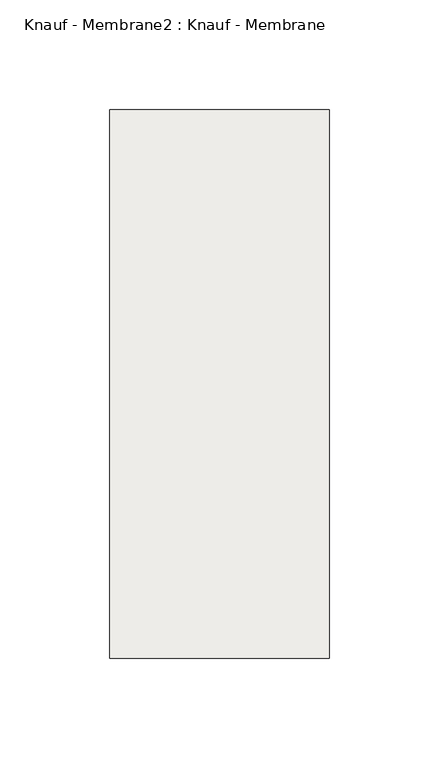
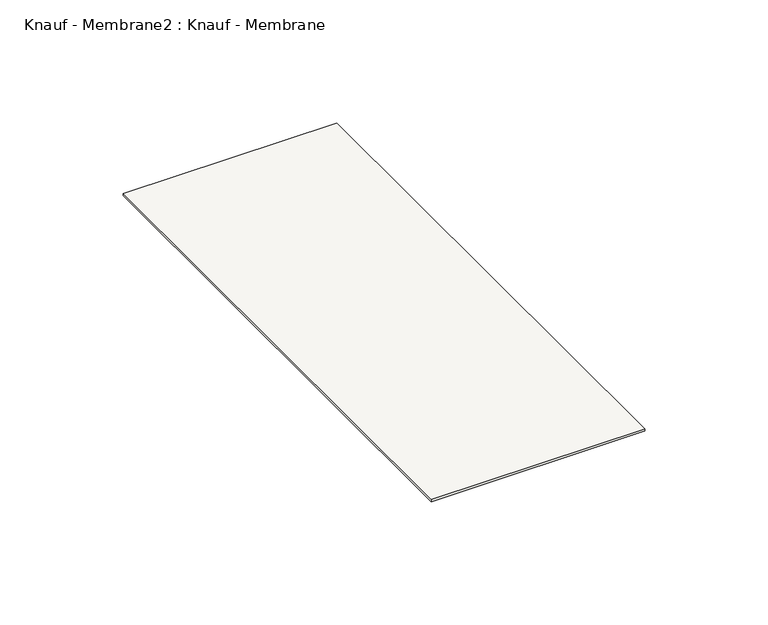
"""IFC4 building model written with IfcOpenShell, lengths in millimetres: slab geometry, Knauf - Membrane2 : Knauf - Membrane."""

import ifcopenshell
import ifcopenshell.guid

model = None  # the IFC model being written
_history = None  # IfcOwnerHistory: only IFC2X3 demands one
_inside = {}  # id of a spatial element -> (the spatial element, [elements in it])
_under = {}  # id of a project, library or spatial element -> (it, [spatial elements below it])
_declared = {}  # id of a project -> (the project, [libraries it declares])
_typed = {}  # id of a type object -> (the type object, [elements of that type])
_made_of = {}  # id of a material, layer set ... -> (it, [elements and type objects made of it])


def new_model(schema):
    """Start an empty IFC model of exactly this schema.

    Asked for "IFC4X3", IfcOpenShell would pick the latest addendum, in which some entities
    have other attributes; the version numbers below select the first issue.
    IFC2X3 requires an IfcOwnerHistory on every rooted entity: one is made here for all.
    """
    global model, _history
    if schema == "IFC4X3":
        model = ifcopenshell.file(schema_version=(4, 3, 0, 0))
    else:
        model = ifcopenshell.file(schema=schema)
    _inside.clear()
    _under.clear()
    _declared.clear()
    _typed.clear()
    _made_of.clear()
    _history = None
    if model.schema == "IFC2X3":
        org = make("IfcOrganization", Name="unknown")
        user = make(
            "IfcPersonAndOrganization",
            ThePerson=make("IfcPerson", FamilyName="unknown"),
            TheOrganization=org,
        )
        app = make(
            "IfcApplication",
            ApplicationDeveloper=org,
            Version="unknown",
            ApplicationFullName="unknown",
            ApplicationIdentifier="unknown",
        )
        _history = make(
            "IfcOwnerHistory",
            OwningUser=user,
            OwningApplication=app,
            ChangeAction="ADDED",
            CreationDate=0,
        )
    return model


def make(cls, **values):
    """One entity of the class cls with the attributes given. An attribute that is None is left unset."""
    return model.create_entity(
        cls, **{name: value for name, value in values.items() if value is not None}
    )


def rooted(cls, **values):
    """An entity with a GlobalId (a new one), such as an element, a storey or a relation."""
    return make(cls, GlobalId=ifcopenshell.guid.new(), OwnerHistory=_history, **values)


def si_unit(unit_type, name, prefix=None):
    """IfcSIUnit, for example si_unit("LENGTHUNIT", "METRE", prefix="MILLI")."""
    return make("IfcSIUnit", UnitType=unit_type, Prefix=prefix, Name=name)


def assignment(units):
    """IfcUnitAssignment: the units of a project."""
    return None if units is None else make("IfcUnitAssignment", Units=units)


def point(xyz):
    """IfcCartesianPoint."""
    return None if xyz is None else make("IfcCartesianPoint", Coordinates=xyz)


def direction(xyz):
    """IfcDirection."""
    return None if xyz is None else make("IfcDirection", DirectionRatios=xyz)


def frame(location, z_axis=None, x_axis=None):
    """IfcAxis2Placement3D, a coordinate frame: its origin and axes. An axis left out is left unset."""
    return make(
        "IfcAxis2Placement3D",
        Location=point(location),
        Axis=direction(z_axis),
        RefDirection=direction(x_axis),
    )


def origin():
    """The frame at (0, 0, 0) with its axes left unset."""
    return frame((0.0, 0.0, 0.0))


def place(relative_to, where):
    """IfcLocalPlacement: puts the frame where relative to a parent placement (None: the world)."""
    return make(
        "IfcLocalPlacement", PlacementRelTo=relative_to, RelativePlacement=where
    )


def context(
    kind, dimensions, precision=None, world=None, true_north=None, identifier=None
):
    """IfcGeometricRepresentationContext, for example the 3D "Model" context."""
    return make(
        "IfcGeometricRepresentationContext",
        ContextIdentifier=identifier,
        ContextType=kind,
        CoordinateSpaceDimension=dimensions,
        Precision=precision,
        WorldCoordinateSystem=world,
        TrueNorth=true_north,
    )


def project(units=None, contexts=None):
    """IfcProject with its units and contexts."""
    return rooted(
        "IfcProject",
        Name="project",
        RepresentationContexts=contexts,
        UnitsInContext=assignment(units),
    )


def spatial(cls, under=None, at=None, **own):
    """A site, building, storey or space (cls), placed at a placement, below another one or the project."""
    s = rooted(cls, ObjectPlacement=at, **own)
    if under is not None:
        _under.setdefault(under.id(), (under, []))[1].append(s)
    return s


def polyline(points):
    """IfcPolyline through the points."""
    return make("IfcPolyline", Points=[point(p) for p in points])


def outline(outer, holes=None, kind="AREA"):
    """IfcArbitraryClosedProfileDef: a profile drawn as a closed curve; with holes, ...WithVoids."""
    if holes is None:
        return make("IfcArbitraryClosedProfileDef", ProfileType=kind, OuterCurve=outer)
    return make(
        "IfcArbitraryProfileDefWithVoids",
        ProfileType=kind,
        OuterCurve=outer,
        InnerCurves=holes,
    )


def extrude(swept, where, along, depth):
    """IfcExtrudedAreaSolid: the profile swept, set in the frame where, extruded along a direction by depth."""
    return make(
        "IfcExtrudedAreaSolid",
        SweptArea=swept,
        Position=where,
        ExtrudedDirection=direction(along),
        Depth=depth,
    )


def shape(context_of_items, identifier, shape_type, items):
    """IfcShapeRepresentation: the items that make up one representation, for example the "Body"."""
    return make(
        "IfcShapeRepresentation",
        ContextOfItems=context_of_items,
        RepresentationIdentifier=identifier,
        RepresentationType=shape_type,
        Items=items,
    )


def source(mapping_origin, context_of_items, identifier, shape_type, items):
    """IfcRepresentationMap: a shape defined once, which mapped items show again and again."""
    return make(
        "IfcRepresentationMap",
        MappingOrigin=mapping_origin,
        MappedRepresentation=shape(context_of_items, identifier, shape_type, items),
    )


def transform(
    local_origin,
    x_axis=None,
    y_axis=None,
    z_axis=None,
    scale=None,
    scale2=None,
    scale3=None,
    uniform=True,
):
    """IfcCartesianTransformationOperator3D, or its non-uniform kind. x_axis, y_axis, z_axis: its Axis1, 2, 3."""
    if uniform:
        return make(
            "IfcCartesianTransformationOperator3D",
            Axis1=direction(x_axis),
            Axis2=direction(y_axis),
            LocalOrigin=point(local_origin),
            Scale=scale,
            Axis3=direction(z_axis),
        )
    return make(
        "IfcCartesianTransformationOperator3DnonUniform",
        Axis1=direction(x_axis),
        Axis2=direction(y_axis),
        LocalOrigin=point(local_origin),
        Scale=scale,
        Axis3=direction(z_axis),
        Scale2=scale2,
        Scale3=scale3,
    )


def mapped(mapping_source, mapping_target):
    """IfcMappedItem: shows the shape of a source again, moved by a transform."""
    return make(
        "IfcMappedItem", MappingSource=mapping_source, MappingTarget=mapping_target
    )


def made_of(thing, what):
    """Note that an element or type object is made of a material, layer set ...; save() writes the relation."""
    if what is not None:
        _made_of.setdefault(what.id(), (what, []))[1].append(thing)
    return thing


def element(
    cls,
    number,
    at=None,
    inside=None,
    cuts=None,
    type_object=None,
    material=None,
    context=None,
    identifier="Body",
    shape_type=None,
    held_by="IfcProductDefinitionShape",
    body=None,
    shapes=None,
    **own,
):
    """One element of the class cls, such as IfcWall. Its Tag is "e" and its number.

    at: its placement. inside: the storey or other place that contains it. cuts: it is an
    opening in that element (IfcRelVoidsElement). A single representation is given by context,
    identifier, shape_type and body (its items); several are given by shapes. held_by: the class
    of the entity that holds the representations. save() writes the other relations.
    """
    e = rooted(cls, Tag="e%d" % number, ObjectPlacement=at, **own)
    if body is not None:
        shapes = [shape(context, identifier, shape_type, body)]
    if shapes is not None:
        e.Representation = make(held_by, Representations=shapes)
    if inside is not None:
        _inside.setdefault(inside.id(), (inside, []))[1].append(e)
    if cuts is not None:
        rooted(
            "IfcRelVoidsElement", RelatingBuildingElement=cuts, RelatedOpeningElement=e
        )
    if type_object is not None:
        _typed.setdefault(type_object.id(), (type_object, []))[1].append(e)
    return made_of(e, material)


def aggregate(whole, parts):
    """IfcRelAggregates: a whole, such as a stair, and the parts it consists of."""
    return rooted("IfcRelAggregates", RelatingObject=whole, RelatedObjects=parts)


def save(model, path):
    """Write the relations noted so far, then the file.

    IfcRelAggregates (storeys below a building ...), IfcRelContainedInSpatialStructure (elements
    in a storey), IfcRelDefinesByType, IfcRelAssociatesMaterial and IfcRelDeclares: one each for
    every whole, place, type object, material and project.
    """
    for whole, parts in _under.values():
        aggregate(whole, parts)
    for where, things in _inside.values():
        rooted(
            "IfcRelContainedInSpatialStructure",
            RelatedElements=things,
            RelatingStructure=where,
        )
    for kind, things in _typed.values():
        rooted("IfcRelDefinesByType", RelatedObjects=things, RelatingType=kind)
    for what, things in _made_of.values():
        rooted("IfcRelAssociatesMaterial", RelatedObjects=things, RelatingMaterial=what)
    for by, libraries in _declared.values():
        rooted("IfcRelDeclares", RelatingContext=by, RelatedDefinitions=libraries)
    model.write(path)


def knauf_membrane2_knauf_membrane_c0085d05(model_context):
    return source(origin(), model_context, "Body", "SweptSolid", [
        extrude(outline(polyline([(19716.285179, 16176.9464372), (19716.285179, 15926.9464372), (19616.285179, 15926.9464372), (19616.285179, 16176.9464372), (19716.285179, 16176.9464372)])), frame((0.0, 0.0, -19.0), z_axis=(0.0, 0.0, 1.0), x_axis=(1.0, 0.0, 0.0)), (0.0, 0.0, 1.0), 1.0),
    ])


if __name__ == "__main__":
    model = new_model("IFC4")
    model_context = context("Model", 3, world=origin())
    ifc_project = project(units=[si_unit("LENGTHUNIT", "METRE", prefix="MILLI")], contexts=[model_context])
    site = spatial("IfcSite", under=ifc_project)
    building = spatial("IfcBuilding", under=site)
    placement = place(None, origin())
    knauf_membrane2_knauf_membrane_shape = knauf_membrane2_knauf_membrane_c0085d05(model_context)
    element("IfcSlab", 1, ObjectType="Knauf - Membrane2 : Knauf - Membrane", at=placement, inside=building, context=model_context, shape_type="MappedRepresentation", body=[
        mapped(knauf_membrane2_knauf_membrane_shape, transform((0.0, 0.0, 0.0), x_axis=(1.0, 0.0, 0.0), y_axis=(0.0, 1.0, 0.0), z_axis=(0.0, 0.0, 1.0))),
    ])
    save(model, "model.ifc")
